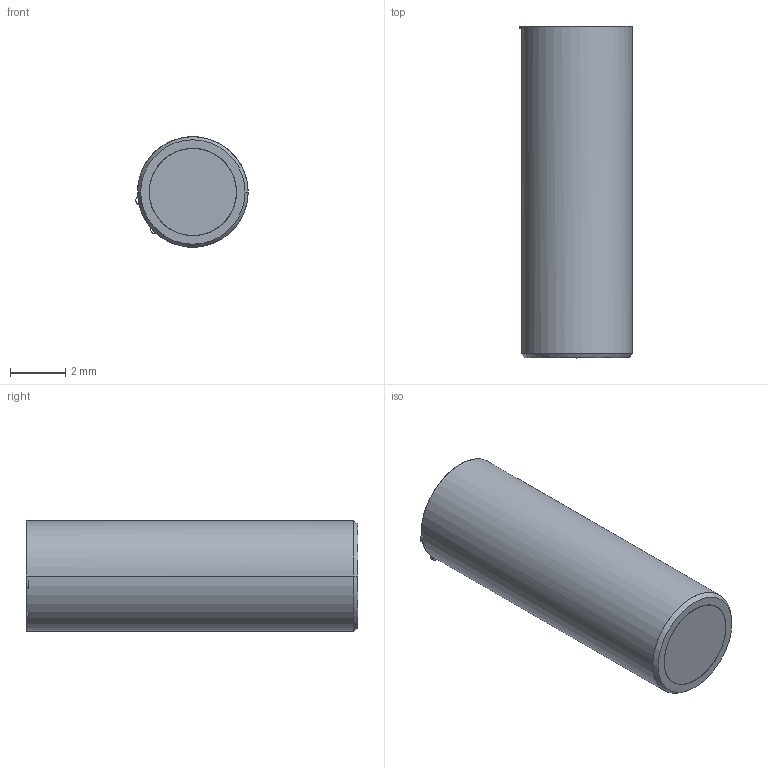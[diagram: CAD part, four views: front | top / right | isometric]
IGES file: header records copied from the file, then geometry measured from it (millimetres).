
Start section: START RECORD GO HERE.
Global section: file name: fa042212-20.igs; native system: DASSAULT SYSTEMES CATIA V5 R20 - www.3ds.com; preprocessor: CATIA Version 5 Release 20 ; author: Utente; organization: NB04-ASUS; date: 20201108.084018; units: millimetre
Bounding box: 4.06 x 12 x 4 mm (x, y, z)
Surface area: 505.4 mm2 (no closed solid volume)
Topology: 0 solids, 0 shells, 531 faces, 2474 edges, 2468 vertices
Faces by surface type: bspline 216, revolution 179, plane 136
